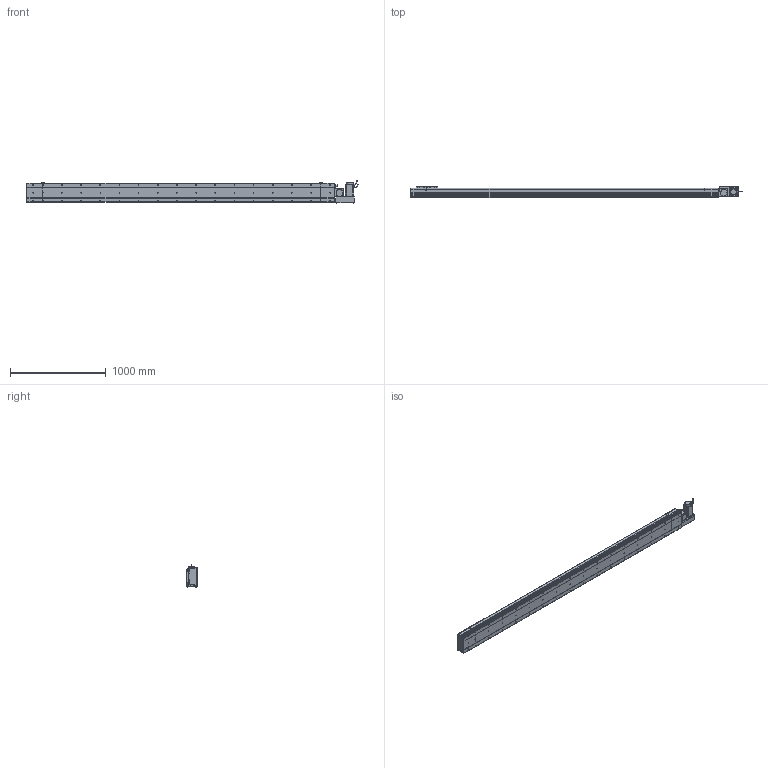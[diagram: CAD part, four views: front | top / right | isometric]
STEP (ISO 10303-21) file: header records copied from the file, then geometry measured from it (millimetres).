
FILE_DESCRIPTION (( 'STEP AP214' ), '1' );
FILE_NAME ('D20 CBH RH S2900.STEP', '2010-06-30T10:33:28', ( 'Conseil Régional Haute-Normandie' ), ( 'Conseil Régional Haute-Normandie' ), 'SwSTEP 2.0', 'SolidWorks 2010', '' );
FILE_SCHEMA (( 'AUTOMOTIVE_DESIGN' ));
Length unit declared in the file: millimetre
Products named in the file (31): Plaque de Bout Tail D20_Default; Couvercle_Default; Corp Tail D20+100_Default; vis M5 L15_Default; Plaque De Serrage D20_Default; Tail D20+100_Default; Couvercle S2900_Default; Corp S2900_Default; Corp D20 S2900_Default; D20 CBH RH S2900; Couvercle RH_Default; Corp Tail D20 RH_Default; Head D20 RH_Default; Rondelle Cache D20 RH_Default; Plaque De Serrage D20 RH_Default; Plaque de Bout Head D20 RH_Default; avant 90BLDC125A-640; Moteur motionking 90BLDC125A-640; Support moteur RH_Default; Conecteur2_Default; codeur 90BLDC125-640; corps 90BLDC125A-640; vis M5 L30_Default; ecrou_Default; Conecteur_Default; Chariot D20_Default; vis M5 L47_Default; Cache Support Moteur RH_Default; Glissiere_Default; Support Chariot D20_Default
Assembly tree (68 placements, depth 4):
  D20 CBH RH S2900
    Chariot D20_Default
      Glissiere_Default
      vis M5 L15_Default  x8
      Support Chariot D20_Default
      Chariot D20_Default
    Tail D20+100_Default
      vis M5 L15_Default  x6
      Couvercle_Default
      Corp Tail D20+100_Default
      Plaque De Serrage D20_Default
      Plaque de Bout Tail D20_Default
    Corp D20 S2900_Default
      Couvercle S2900_Default
      Corp S2900_Default
    Head D20 RH_Default
      vis M5 L15_Default  x14
      Cache Support Moteur RH_Default
      ecrou_Default  x4
      Couvercle RH_Default
      vis M5 L47_Default  x4
      Support moteur RH_Default
      Plaque de Bout Head D20 RH_Default
      vis M5 L30_Default  x4
      Rondelle Cache D20 RH_Default  x3
      Moteur motionking 90BLDC125A-640
        Conecteur_Default
        corps 90BLDC125A-640
        Conecteur2_Default
        codeur 90BLDC125-640
        avant 90BLDC125A-640
      Plaque De Serrage D20 RH_Default
      Corp Tail D20 RH_Default
Bounding box: 3465.45 x 119.5 x 229.7 mm (x, y, z)
Volume: 22609589.8 mm3; surface area: 4353878.8 mm2
Topology: 105 solids, 105 shells, 3865 faces, 9606 edges, 6238 vertices
Faces by surface type: plane 2146, bspline 806, cylinder 742, torus 95, cone 72, sphere 4
Entity records: 160790 total; most frequent: CARTESIAN_POINT 82541, ORIENTED_EDGE 15480, DIRECTION 11878, EDGE_CURVE 7740, VERTEX_POINT 5122, LINE 4984, VECTOR 4984, AXIS2_PLACEMENT_3D 3447
